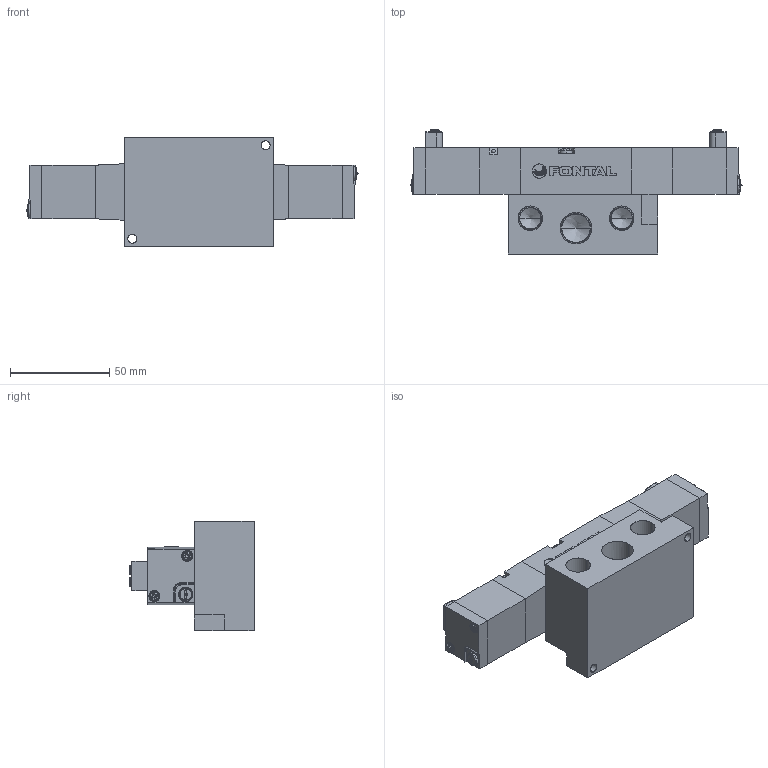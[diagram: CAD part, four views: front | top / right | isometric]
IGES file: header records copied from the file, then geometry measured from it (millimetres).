
Start section: SolidWorks IGES file using analytic representation for surfaces
Global section: file name: D:\Custom\3D繪製\PC\PC08\PCD2408#-03-#L#.IGS,1; native system: 5HSolidWorks 2014; preprocessor: SolidWorks 2014; author: Chieh_Lu; date: 150801.025813; units: millimetre
Bounding box: 166.95 x 62.5 x 55 mm (x, y, z)
Surface area: 49417 mm2 (no closed solid volume)
Topology: 0 solids, 0 shells, 528 faces, 5354 edges, 5324 vertices
Faces by surface type: bspline 336, revolution 192
